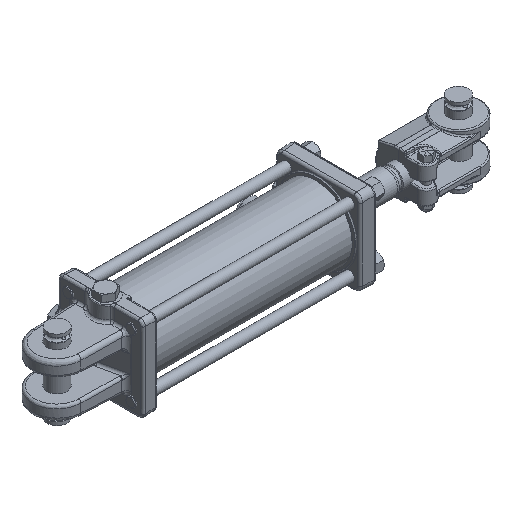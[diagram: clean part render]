
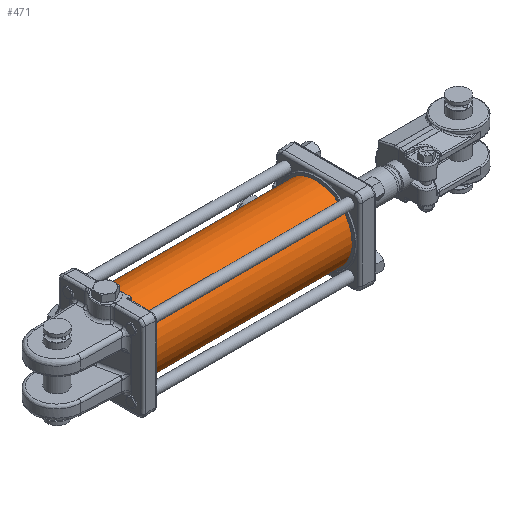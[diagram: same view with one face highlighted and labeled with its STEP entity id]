
A CAD part, isometric view. The second image highlights one B-rep face of the part: STEP entity #471.
In plain terms, the highlighted cylindrical face has radius 46.038 mm (diameter 92.075 mm), a full revolution.
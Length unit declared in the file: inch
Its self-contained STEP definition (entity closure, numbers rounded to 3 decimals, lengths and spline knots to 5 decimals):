
#210=CARTESIAN_POINT('',(-0.842,1.81168,0.0545));
#211=VERTEX_POINT('',#210);
#212=CARTESIAN_POINT('',(-0.842,1.81168,0.0545));
#213=CARTESIAN_POINT('',(-0.84884,1.81168,0.0545));
#214=CARTESIAN_POINT('',(-0.85614,1.81172,0.05313));
#215=CARTESIAN_POINT('',(-0.86957,1.81188,0.04757));
#216=CARTESIAN_POINT('',(-0.8757,1.81199,0.04338));
#217=CARTESIAN_POINT('',(-0.88538,1.81219,0.0337));
#218=CARTESIAN_POINT('',(-0.88957,1.8123,0.02757));
#219=CARTESIAN_POINT('',(-0.89513,1.81246,0.01414));
#220=CARTESIAN_POINT('',(-0.8965,1.8125,0.00684));
#221=CARTESIAN_POINT('',(-0.8965,1.8125,-0.00684));
#222=CARTESIAN_POINT('',(-0.89513,1.81246,-0.01414));
#223=CARTESIAN_POINT('',(-0.88957,1.8123,-0.02757));
#224=CARTESIAN_POINT('',(-0.88538,1.81219,-0.0337));
#225=CARTESIAN_POINT('',(-0.8757,1.81199,-0.04338));
#226=CARTESIAN_POINT('',(-0.86957,1.81188,-0.04757));
#227=CARTESIAN_POINT('',(-0.85614,1.81172,-0.05313));
#228=CARTESIAN_POINT('',(-0.84884,1.81168,-0.0545));
#229=CARTESIAN_POINT('',(-0.83516,1.81168,-0.0545));
#230=CARTESIAN_POINT('',(-0.82786,1.81172,-0.05313));
#231=CARTESIAN_POINT('',(-0.81443,1.81188,-0.04757));
#232=CARTESIAN_POINT('',(-0.8083,1.81199,-0.04338));
#233=CARTESIAN_POINT('',(-0.79862,1.81219,-0.0337));
#234=CARTESIAN_POINT('',(-0.79443,1.8123,-0.02757));
#235=CARTESIAN_POINT('',(-0.78887,1.81246,-0.01414));
#236=CARTESIAN_POINT('',(-0.7875,1.8125,-0.00684));
#237=CARTESIAN_POINT('',(-0.7875,1.8125,0.00684));
#238=CARTESIAN_POINT('',(-0.78887,1.81246,0.01414));
#239=CARTESIAN_POINT('',(-0.79443,1.8123,0.02757));
#240=CARTESIAN_POINT('',(-0.79862,1.81219,0.0337));
#241=CARTESIAN_POINT('',(-0.8083,1.81199,0.04338));
#242=CARTESIAN_POINT('',(-0.81443,1.81188,0.04757));
#243=CARTESIAN_POINT('',(-0.82786,1.81172,0.05313));
#244=CARTESIAN_POINT('',(-0.83516,1.81168,0.0545));
#245=CARTESIAN_POINT('',(-0.842,1.81168,0.0545));
#246=B_SPLINE_CURVE_WITH_KNOTS('',3,(#212,#213,#214,#215,#216,#217,#218,#219,#220,#221,#222,#223,#224,#225,#226,#227,#228,#229,#230,#231,#232,#233,#234,#235,#236,#237,#238,#239,#240,#241,#242,#243,#244,#245),.UNSPECIFIED.,.T.,.U.,(4,2,2,2,2,2,2,2,2,2,2,2,2,2,2,2,4),(0.0,0.05215,0.1043,0.15644,0.20859,0.26074,0.31289,0.36504,0.41718,0.46933,0.52148,0.57363,0.62578,0.67793,0.73007,0.78222,0.83437),.UNSPECIFIED.);
#247=EDGE_CURVE('',#211,#211,#246,.T.);
#298=CARTESIAN_POINT('',(-1.222,1.81223,0.031));
#299=VERTEX_POINT('',#298);
#300=CARTESIAN_POINT('',(-1.222,1.81223,0.031));
#301=CARTESIAN_POINT('',(-1.22589,1.81223,0.031));
#302=CARTESIAN_POINT('',(-1.23004,1.81225,0.03022));
#303=CARTESIAN_POINT('',(-1.23768,1.8123,0.02706));
#304=CARTESIAN_POINT('',(-1.24117,1.81233,0.02467));
#305=CARTESIAN_POINT('',(-1.24667,1.8124,0.01917));
#306=CARTESIAN_POINT('',(-1.24906,1.81244,0.01568));
#307=CARTESIAN_POINT('',(-1.25222,1.81249,0.00804));
#308=CARTESIAN_POINT('',(-1.253,1.8125,0.00389));
#309=CARTESIAN_POINT('',(-1.253,1.8125,-0.00389));
#310=CARTESIAN_POINT('',(-1.25222,1.81249,-0.00804));
#311=CARTESIAN_POINT('',(-1.24906,1.81244,-0.01568));
#312=CARTESIAN_POINT('',(-1.24667,1.8124,-0.01917));
#313=CARTESIAN_POINT('',(-1.24117,1.81233,-0.02467));
#314=CARTESIAN_POINT('',(-1.23768,1.8123,-0.02706));
#315=CARTESIAN_POINT('',(-1.23004,1.81225,-0.03022));
#316=CARTESIAN_POINT('',(-1.22589,1.81223,-0.031));
#317=CARTESIAN_POINT('',(-1.21811,1.81223,-0.031));
#318=CARTESIAN_POINT('',(-1.21396,1.81225,-0.03022));
#319=CARTESIAN_POINT('',(-1.20632,1.8123,-0.02706));
#320=CARTESIAN_POINT('',(-1.20283,1.81233,-0.02467));
#321=CARTESIAN_POINT('',(-1.19733,1.8124,-0.01917));
#322=CARTESIAN_POINT('',(-1.19494,1.81244,-0.01568));
#323=CARTESIAN_POINT('',(-1.19178,1.81249,-0.00804));
#324=CARTESIAN_POINT('',(-1.191,1.8125,-0.00389));
#325=CARTESIAN_POINT('',(-1.191,1.8125,0.00389));
#326=CARTESIAN_POINT('',(-1.19178,1.81249,0.00804));
#327=CARTESIAN_POINT('',(-1.19494,1.81244,0.01568));
#328=CARTESIAN_POINT('',(-1.19733,1.8124,0.01917));
#329=CARTESIAN_POINT('',(-1.20283,1.81233,0.02467));
#330=CARTESIAN_POINT('',(-1.20632,1.8123,0.02706));
#331=CARTESIAN_POINT('',(-1.21396,1.81225,0.03022));
#332=CARTESIAN_POINT('',(-1.21811,1.81223,0.031));
#333=CARTESIAN_POINT('',(-1.222,1.81223,0.031));
#334=B_SPLINE_CURVE_WITH_KNOTS('',3,(#300,#301,#302,#303,#304,#305,#306,#307,#308,#309,#310,#311,#312,#313,#314,#315,#316,#317,#318,#319,#320,#321,#322,#323,#324,#325,#326,#327,#328,#329,#330,#331,#332,#333),.UNSPECIFIED.,.T.,.U.,(4,2,2,2,2,2,2,2,2,2,2,2,2,2,2,2,4),(0.0,0.02966,0.05932,0.08898,0.11864,0.1483,0.17797,0.20763,0.23729,0.26695,0.29661,0.32627,0.35593,0.38559,0.41525,0.44491,0.47457),.UNSPECIFIED.);
#335=EDGE_CURVE('',#299,#299,#334,.T.);
#345=CARTESIAN_POINT('',(0.,1.8125,0.0));
#346=VERTEX_POINT('',#345);
#347=CARTESIAN_POINT('',(0.,0.0,0.0));
#348=DIRECTION('',(1.0,0.0,0.0));
#349=DIRECTION('',(0.0,1.0,0.0));
#350=AXIS2_PLACEMENT_3D('',#347,#348,#349);
#351=CIRCLE('',#350,1.8125);
#352=EDGE_CURVE('',#346,#346,#351,.T.);
#439=CARTESIAN_POINT('',(-10.09375,1.8125,0.0));
#440=VERTEX_POINT('',#439);
#441=CARTESIAN_POINT('',(-10.09375,0.0,0.0));
#442=DIRECTION('',(1.0,0.0,0.0));
#443=DIRECTION('',(0.0,1.0,0.0));
#444=AXIS2_PLACEMENT_3D('',#441,#442,#443);
#445=CIRCLE('',#444,1.8125);
#446=EDGE_CURVE('',#440,#440,#445,.T.);
#454=CARTESIAN_POINT('',(-5.04688,0.0,0.0));
#455=DIRECTION('',(1.0,0.0,0.0));
#456=DIRECTION('',(0.0,1.0,0.0));
#457=AXIS2_PLACEMENT_3D('',#454,#455,#456);
#458=CYLINDRICAL_SURFACE('',#457,1.8125);
#459=ORIENTED_EDGE('',*,*,#352,.F.);
#460=EDGE_LOOP('',(#459));
#461=FACE_OUTER_BOUND('',#460,.T.);
#462=ORIENTED_EDGE('',*,*,#247,.T.);
#463=EDGE_LOOP('',(#462));
#464=FACE_BOUND('',#463,.T.);
#465=ORIENTED_EDGE('',*,*,#335,.T.);
#466=EDGE_LOOP('',(#465));
#467=FACE_BOUND('',#466,.T.);
#468=ORIENTED_EDGE('',*,*,#446,.T.);
#469=EDGE_LOOP('',(#468));
#470=FACE_BOUND('',#469,.T.);
#471=ADVANCED_FACE('',(#461,#464,#467,#470),#458,.T.);
